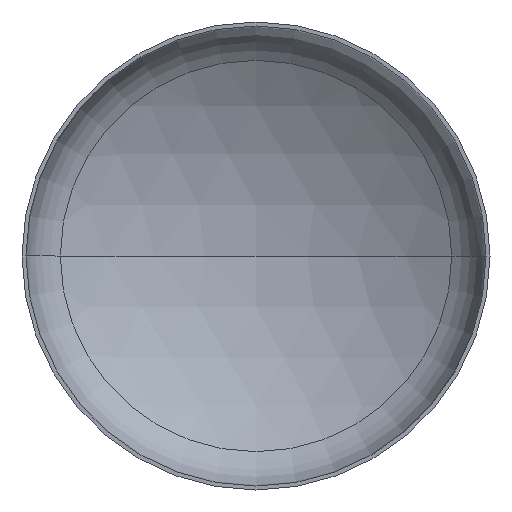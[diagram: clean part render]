
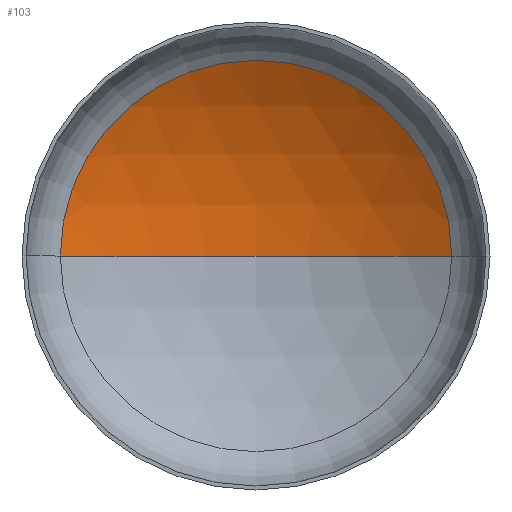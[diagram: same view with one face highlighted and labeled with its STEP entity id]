
A CAD part, front view. The second image highlights one B-rep face of the part: STEP entity #103.
In plain terms, the highlighted spherical face has radius 4400 mm.
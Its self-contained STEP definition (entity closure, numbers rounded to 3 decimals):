
#16 = VERTEX_POINT ( 'NONE', #105 ) ;
#20 = ORIENTED_EDGE ( 'NONE', *, *, #337, .T. ) ;
#22 = DIRECTION ( 'NONE',  ( 1., 0., 0. ) ) ;
#39 = EDGE_LOOP ( 'NONE', ( #77, #68, #20 ) ) ;
#68 = ORIENTED_EDGE ( 'NONE', *, *, #350, .T. ) ;
#77 = ORIENTED_EDGE ( 'NONE', *, *, #228, .F. ) ;
#79 = CARTESIAN_POINT ( 'NONE',  ( 0., 1519.181, 0. ) ) ;
#82 = FACE_OUTER_BOUND ( 'NONE', #39, .T. ) ;
#85 = CARTESIAN_POINT ( 'NONE',  ( 0., 870.406, 0. ) ) ;
#103 = ADVANCED_FACE ( 'NONE', ( #82 ), #189, .F. ) ;
#105 = CARTESIAN_POINT ( 'NONE',  ( 2299.634, 870.406, 0. ) ) ;
#110 = CIRCLE ( 'NONE', #340, 2299.634 ) ;
#113 = VERTEX_POINT ( 'NONE', #322 ) ;
#151 = AXIS2_PLACEMENT_3D ( 'NONE', #185, #246, #22 ) ;
#155 = DIRECTION ( 'NONE',  ( 1., 0., 0. ) ) ;
#185 = CARTESIAN_POINT ( 'NONE',  ( 0., -2880.819, 0. ) ) ;
#189 = SPHERICAL_SURFACE ( 'NONE', #291, 4400. ) ;
#194 = VERTEX_POINT ( 'NONE', #79 ) ;
#196 = DIRECTION ( 'NONE',  ( 0., 0., -1. ) ) ;
#199 = DIRECTION ( 'NONE',  ( -1., 0., 0. ) ) ;
#211 = DIRECTION ( 'NONE',  ( 0., 0., -1. ) ) ;
#227 = CARTESIAN_POINT ( 'NONE',  ( 0., -2880.819, 0. ) ) ;
#228 = EDGE_CURVE ( 'NONE', #194, #113, #353, .T. ) ;
#246 = DIRECTION ( 'NONE',  ( 0., 0., 1. ) ) ;
#291 = AXIS2_PLACEMENT_3D ( 'NONE', #227, #211, #199 ) ;
#302 = DIRECTION ( 'NONE',  ( 0., -1., 0. ) ) ;
#322 = CARTESIAN_POINT ( 'NONE',  ( -2299.634, 870.406, 0. ) ) ;
#337 = EDGE_CURVE ( 'NONE', #16, #113, #110, .T. ) ;
#340 = AXIS2_PLACEMENT_3D ( 'NONE', #85, #302, #155 ) ;
#341 = CIRCLE ( 'NONE', #355, 4400. ) ;
#350 = EDGE_CURVE ( 'NONE', #194, #16, #341, .T. ) ;
#353 = CIRCLE ( 'NONE', #151, 4400. ) ;
#355 = AXIS2_PLACEMENT_3D ( 'NONE', #357, #196, #359 ) ;
#357 = CARTESIAN_POINT ( 'NONE',  ( 0., -2880.819, 0. ) ) ;
#359 = DIRECTION ( 'NONE',  ( -1., 0., 0. ) ) ;
